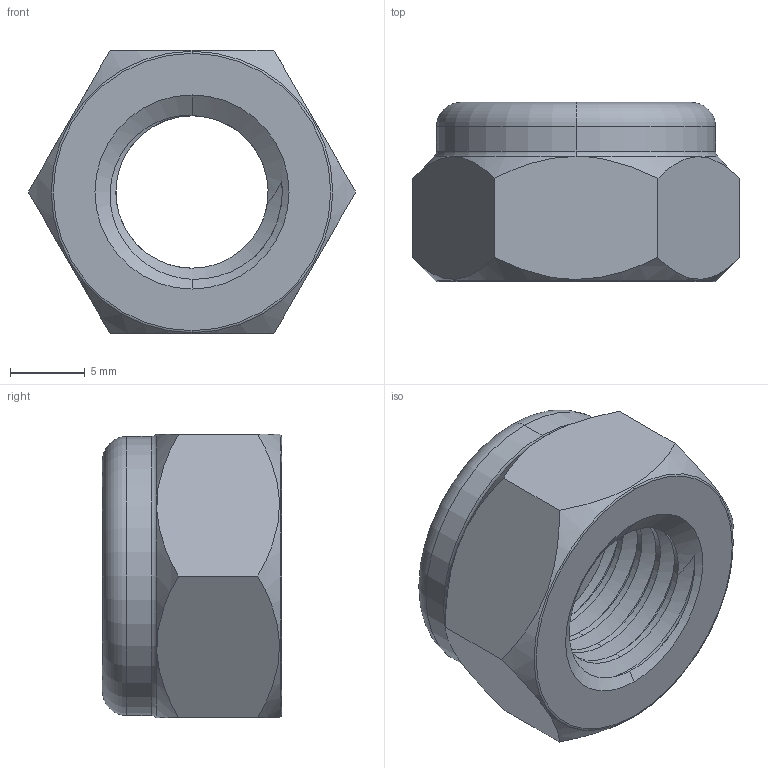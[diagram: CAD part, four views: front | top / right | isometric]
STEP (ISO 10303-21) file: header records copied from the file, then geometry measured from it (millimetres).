
FILE_DESCRIPTION (( 'STEP AP203' ), '1' );
FILE_NAME ('TANK-304-M12.STEP', '2026-08-24T14:49:17', ( '' ), ( '' ), 'SwSTEP 2.0', 'SolidWorks 2020', '' );
FILE_SCHEMA (( 'CONFIG_CONTROL_DESIGN' ));
Length unit declared in the file: millimetre
Products named in the file (1): TANK-304-M12
Bounding box: 21.94 x 12 x 19 mm (x, y, z)
Volume: 2316.4 mm3; surface area: 2439.2 mm2
Topology: 2 solids, 2 shells, 50 faces, 121 edges, 75 vertices
Faces by surface type: cylinder 17, torus 10, cone 10, plane 10, bspline 3
Entity records: 2938 total; most frequent: CARTESIAN_POINT 1767, ORIENTED_EDGE 242, DIRECTION 218, EDGE_CURVE 121, AXIS2_PLACEMENT_3D 93, VERTEX_POINT 75, EDGE_LOOP 54, FACE_OUTER_BOUND 50
